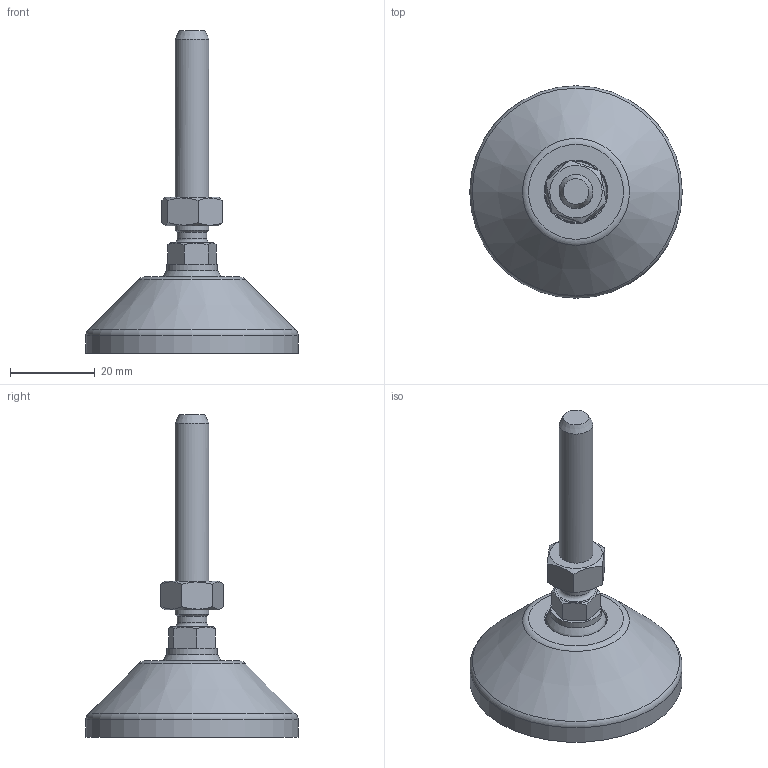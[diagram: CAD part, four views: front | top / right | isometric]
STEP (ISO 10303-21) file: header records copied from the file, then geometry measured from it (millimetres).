
FILE_DESCRIPTION(('STEP AP203'), '1');
FILE_NAME('栖闉罻', '', ('UNSPECIFIED'), ('UNSPECIFIED'), 'C3D Converter', 'C3D Toolkit', '');
FILE_SCHEMA(('CONFIG_CONTROL_DESIGN'));
Length unit declared in the file: millimetre
Products named in the file (4): A00015.1050; A00020.108080
Assembly tree (3 placements, depth 3):
  (unnamed)
    A00015.1050
    A00020.108080
      (unnamed)
Bounding box: 50 x 50 x 76 mm (x, y, z)
Volume: 20784.3 mm3; surface area: 10518.4 mm2
Topology: 3 solids, 3 shells, 182 faces, 496 edges, 332 vertices
Faces by surface type: plane 86, cylinder 50, torus 30, cone 14, sphere 2
Full cylindrical faces by diameter (mm): 4 x8, 6.647 x1, 7 x1, 8 x1, 12 x1, 14.3 x1, 15 x2, 15.5 x1, 39 x1, 50 x1
Entity records: 9541 total; most frequent: CARTESIAN_POINT 3376, DIRECTION 952, ORIENTED_EDGE 922, EDGE_CURVE 461, AXIS2_PLACEMENT_3D 395, VERTEX_POINT 331, EDGE_LOOP 230, CIRCLE 209
